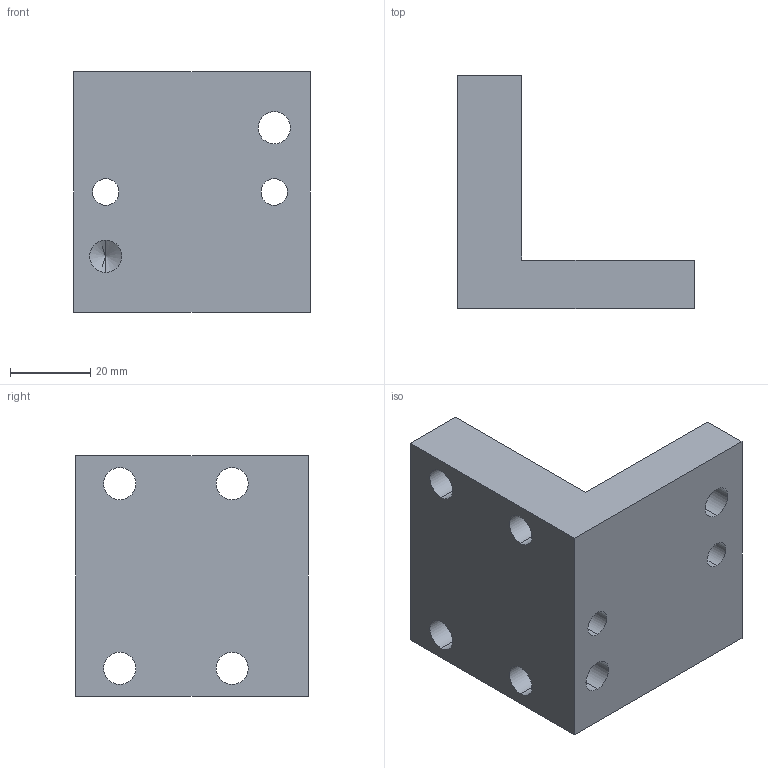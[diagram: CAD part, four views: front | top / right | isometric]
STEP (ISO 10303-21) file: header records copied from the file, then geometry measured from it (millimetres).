
FILE_DESCRIPTION (( 'STEP AP203' ), '1' );
FILE_NAME ('PPE80-L.step', '2017-02-15T12:25:58', ( '' ), ( '' ), 'SwSTEP 2.0', 'SolidWorks 2012', '' );
FILE_SCHEMA (( 'CONFIG_CONTROL_DESIGN' ));
Length unit declared in the file: millimetre
Products named in the file (1): PPE80-L
Bounding box: 59 x 58 x 60 mm (x, y, z)
Volume: 77517.4 mm3; surface area: 20488.3 mm2
Topology: 1 solids, 1 shells, 32 faces, 82 edges, 53 vertices
Faces by surface type: cylinder 20, plane 10, cone 2
Entity records: 1081 total; most frequent: DIRECTION 186, CARTESIAN_POINT 166, ORIENTED_EDGE 160, EDGE_CURVE 80, AXIS2_PLACEMENT_3D 73, VERTEX_POINT 53, EDGE_LOOP 49, VECTOR 40
